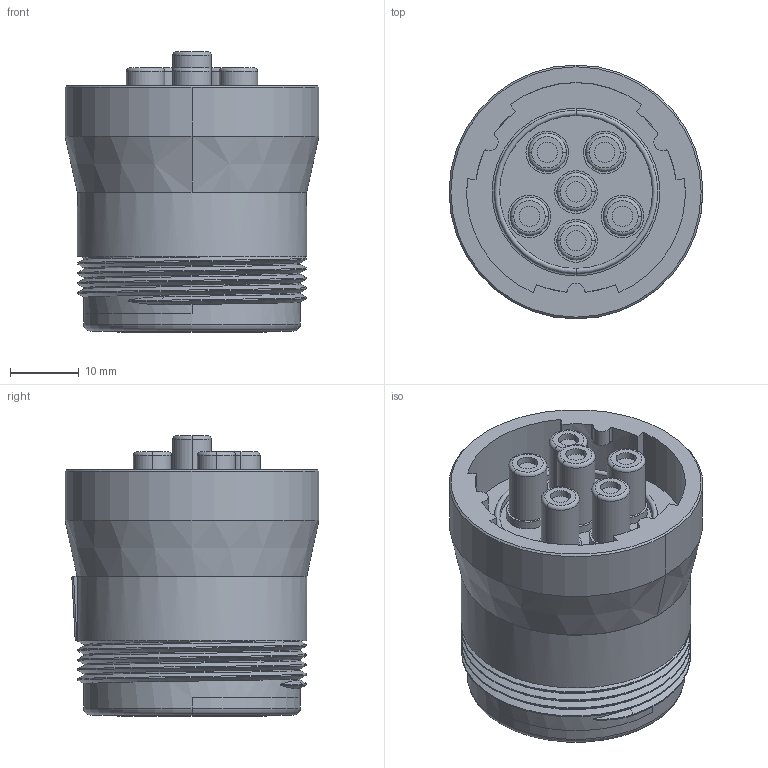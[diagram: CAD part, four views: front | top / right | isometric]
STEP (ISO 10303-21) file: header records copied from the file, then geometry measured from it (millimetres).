
FILE_DESCRIPTION((''),'2;1');
FILE_NAME('C-HD16-6-96S','2013-06-15T',('workeradm'),('Tyco Electronics Ltd.'),'PRO/ENGINEER BY PARAMETRIC TECHNOLOGY CORPORATION, 2011490','PRO/ENGINEER BY PARAMETRIC TECHNOLOGY CORPORATION, 2011490','');
FILE_SCHEMA(('AUTOMOTIVE_DESIGN { 1 0 10303 214 1 1 1 1 }'));
Length unit declared in the file: millimetre
Products named in the file (1): C-HD16-6-96S
Bounding box: 36.91 x 36.91 x 40.79 mm (x, y, z)
Volume: 28489.8 mm3; surface area: 8547.4 mm2
Topology: 1 solids, 1 shells, 262 faces, 617 edges, 398 vertices
Faces by surface type: plane 117, cylinder 101, bspline 18, torus 18, cone 8
Entity records: 14453 total; most frequent: CARTESIAN_POINT 6126, DIRECTION 1321, ORIENTED_EDGE 1234, PRESENTATION_STYLE_ASSIGNMENT 618, STYLED_ITEM 618, CURVE_STYLE 617, EDGE_CURVE 617, AXIS2_PLACEMENT_3D 497
